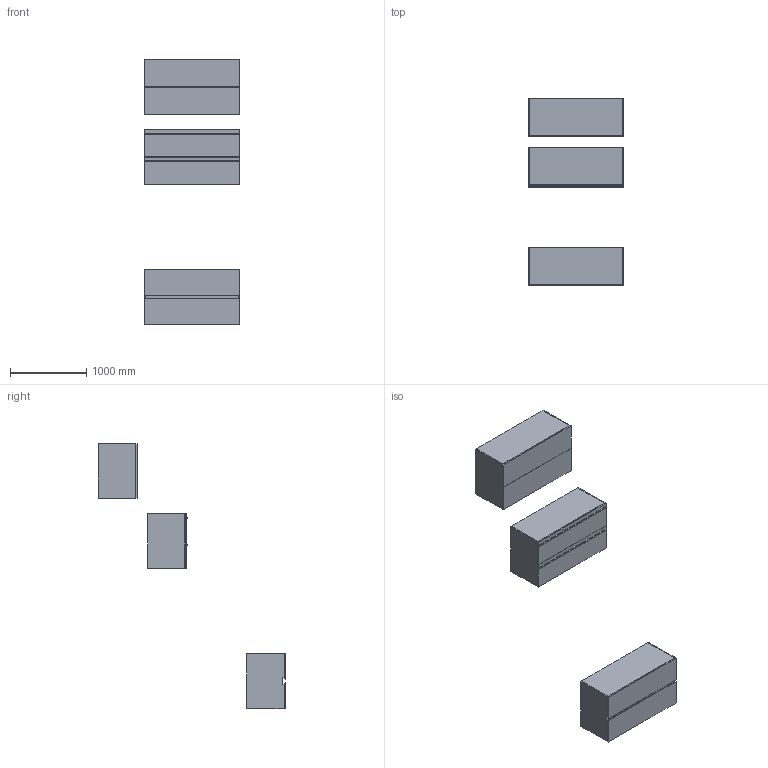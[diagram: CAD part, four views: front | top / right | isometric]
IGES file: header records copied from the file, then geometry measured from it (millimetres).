
Start section: Data from Parasolid IGES Translator 19.0.9, Copyright(c) 2006 Siemens PL M Software. All Rights Reserved.
Global section: file name: noorth-SI-H 72 D 51 W 126_8665.igs; native system: By Siemens PLM Incorporated; preprocessor: XPlus GENERIC/IGES 19.0.9; author: Noname; organization: Noname; date: 20200601.122403; units: metre
Bounding box: 1260 x 2458 x 3480.01 mm (x, y, z)
Volume: 149564180.9 mm3; surface area: 23186459.9 mm2
Topology: 24 solids, 24 shells, 248 faces, 544 edges, 324 vertices
Faces by surface type: plane 164, extrusion 36, bspline 32, cylinder 16
